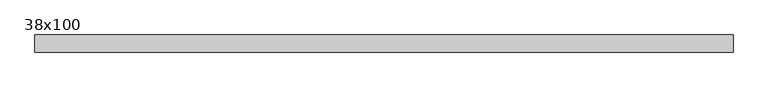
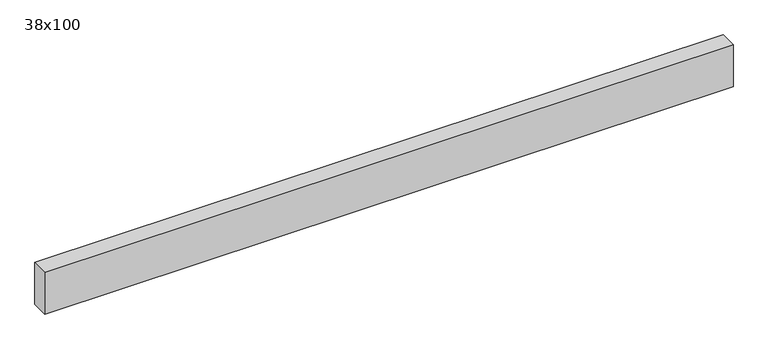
"""IFC4 building model written with IfcOpenShell, lengths in millimetres: beam geometry, Poutre - Bois de construction de dimensions courantes : 38x100."""

from ifc_helpers import new_model, si_unit, frame, origin, place, context, project, spatial, polyline, outline, extrude, source, transform, mapped, element, save


def beam_38x100_06affcd9(model_context):
    return source(origin(), model_context, "Body", "SweptSolid", [
        extrude(outline(polyline([(770.0, 19.05), (770.0, -19.05), (-783.0, -19.05), (-783.0, 19.05), (770.0, 19.05)])), frame((0.0, 0.0, -50.0), z_axis=(0.0, 0.0, 1.0), x_axis=(1.0, 0.0, 0.0)), (0.0, 0.0, 1.0), 100.0),
    ])


if __name__ == "__main__":
    model = new_model("IFC4")
    model_context = context("Model", 3, world=origin())
    ifc_project = project(units=[si_unit("LENGTHUNIT", "METRE", prefix="MILLI")], contexts=[model_context])
    site = spatial("IfcSite", under=ifc_project)
    building = spatial("IfcBuilding", under=site)
    placement = place(None, origin())
    beam_38x100_shape = beam_38x100_06affcd9(model_context)
    element("IfcBeam", 1, ObjectType="Poutre - Bois de construction de dimensions courantes : 38x100", at=placement, inside=building, context=model_context, shape_type="MappedRepresentation", body=[
        mapped(beam_38x100_shape, transform((0.0, 0.0, 0.0), x_axis=(1.0, 0.0, 0.0), y_axis=(0.0, 1.0, 0.0), z_axis=(0.0, 0.0, 1.0))),
    ])
    save(model, "model.ifc")
